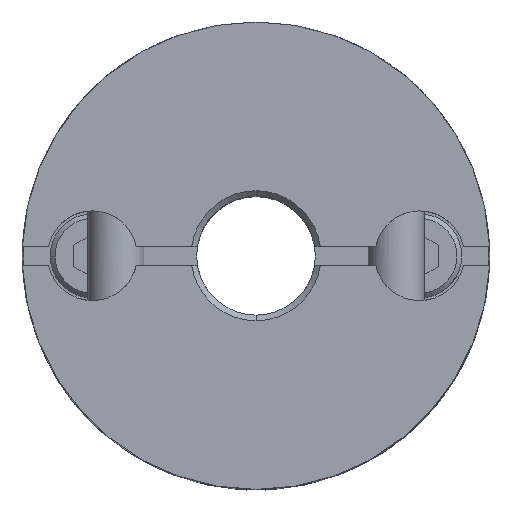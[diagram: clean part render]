
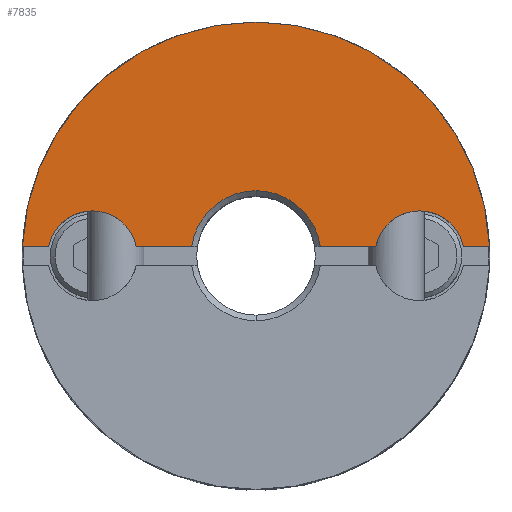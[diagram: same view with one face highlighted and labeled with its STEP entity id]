
A CAD part, top view. The second image highlights one B-rep face of the part: STEP entity #7835.
In plain terms, the highlighted planar face has unit normal (0, 0, 1).
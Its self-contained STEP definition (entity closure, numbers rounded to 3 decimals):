
#809=CARTESIAN_POINT('',(0.,12.5,11.7));
#810=VERTEX_POINT('',#809);
#817=CARTESIAN_POINT('',(12.49,0.5,11.7));
#818=VERTEX_POINT('',#817);
#819=CARTESIAN_POINT('',(0.,0.0,11.7));
#820=DIRECTION('',(0.0,0.0,-1.0));
#821=DIRECTION('',(0.0,-1.0,0.0));
#822=AXIS2_PLACEMENT_3D('',#819,#820,#821);
#823=CIRCLE('',#822,12.5);
#824=EDGE_CURVE('',#810,#818,#823,.T.);
#1028=CARTESIAN_POINT('',(0.,3.475,11.7));
#1029=VERTEX_POINT('',#1028);
#1037=CARTESIAN_POINT('',(3.439,0.5,11.7));
#1038=VERTEX_POINT('',#1037);
#1052=CARTESIAN_POINT('',(0.,0.0,11.7));
#1053=DIRECTION('',(0.0,0.0,1.0));
#1054=DIRECTION('',(0.0,1.0,0.0));
#1055=AXIS2_PLACEMENT_3D('',#1052,#1053,#1054);
#1056=CIRCLE('',#1055,3.475);
#1057=EDGE_CURVE('',#1038,#1029,#1056,.T.);
#1428=CARTESIAN_POINT('',(8.75,2.4,11.7));
#1429=VERTEX_POINT('',#1428);
#1436=CARTESIAN_POINT('',(6.403,0.5,11.7));
#1437=VERTEX_POINT('',#1436);
#1438=CARTESIAN_POINT('',(8.75,0.,11.7));
#1439=DIRECTION('',(0.0,0.0,-1.0));
#1440=DIRECTION('',(0.0,-1.0,0.0));
#1441=AXIS2_PLACEMENT_3D('',#1438,#1439,#1440);
#1442=CIRCLE('',#1441,2.4);
#1443=EDGE_CURVE('',#1437,#1429,#1442,.T.);
#1503=CARTESIAN_POINT('',(11.097,0.5,11.7));
#1504=VERTEX_POINT('',#1503);
#1511=CARTESIAN_POINT('',(8.75,0.,11.7));
#1512=DIRECTION('',(0.0,0.0,-1.0));
#1513=DIRECTION('',(0.0,-1.0,0.0));
#1514=AXIS2_PLACEMENT_3D('',#1511,#1512,#1513);
#1515=CIRCLE('',#1514,2.4);
#1516=EDGE_CURVE('',#1429,#1504,#1515,.T.);
#1837=CARTESIAN_POINT('',(-8.75,2.4,11.7));
#1838=VERTEX_POINT('',#1837);
#1870=CARTESIAN_POINT('',(-6.403,0.5,11.7));
#1871=VERTEX_POINT('',#1870);
#1878=CARTESIAN_POINT('',(-8.75,0.,11.7));
#1879=DIRECTION('',(0.0,0.0,-1.0));
#1880=DIRECTION('',(0.0,-1.0,0.0));
#1881=AXIS2_PLACEMENT_3D('',#1878,#1879,#1880);
#1882=CIRCLE('',#1881,2.4);
#1883=EDGE_CURVE('',#1838,#1871,#1882,.T.);
#6343=CARTESIAN_POINT('',(-11.097,0.5,11.7));
#6344=VERTEX_POINT('',#6343);
#6345=CARTESIAN_POINT('',(-8.75,0.,11.7));
#6346=DIRECTION('',(0.0,0.0,-1.0));
#6347=DIRECTION('',(0.0,-1.0,0.0));
#6348=AXIS2_PLACEMENT_3D('',#6345,#6346,#6347);
#6349=CIRCLE('',#6348,2.4);
#6350=EDGE_CURVE('',#6344,#1838,#6349,.T.);
#6870=CARTESIAN_POINT('',(3.439,0.5,11.7));
#6871=DIRECTION('',(1.0,0.0,0.0));
#6872=VECTOR('',#6871,2.964);
#6873=LINE('',#6870,#6872);
#6874=EDGE_CURVE('',#1038,#1437,#6873,.T.);
#6938=CARTESIAN_POINT('',(-3.439,0.5,11.7));
#6939=VERTEX_POINT('',#6938);
#6953=CARTESIAN_POINT('',(-6.403,0.5,11.7));
#6954=DIRECTION('',(1.0,0.0,0.0));
#6955=VECTOR('',#6954,2.964);
#6956=LINE('',#6953,#6955);
#6957=EDGE_CURVE('',#1871,#6939,#6956,.T.);
#7613=CARTESIAN_POINT('',(-12.49,0.5,11.7));
#7614=VERTEX_POINT('',#7613);
#7615=CARTESIAN_POINT('',(-12.49,0.5,11.7));
#7616=DIRECTION('',(1.0,0.0,0.0));
#7617=VECTOR('',#7616,1.393);
#7618=LINE('',#7615,#7617);
#7619=EDGE_CURVE('',#7614,#6344,#7618,.T.);
#7719=CARTESIAN_POINT('',(11.097,0.5,11.7));
#7720=DIRECTION('',(1.0,0.0,0.0));
#7721=VECTOR('',#7720,1.393);
#7722=LINE('',#7719,#7721);
#7723=EDGE_CURVE('',#1504,#818,#7722,.T.);
#7804=CARTESIAN_POINT('',(0.,-1.136,11.7));
#7805=DIRECTION('',(0.0,0.0,1.0));
#7806=DIRECTION('',(0.0,-1.0,0.0));
#7807=AXIS2_PLACEMENT_3D('',#7804,#7805,#7806);
#7808=PLANE('',#7807);
#7809=ORIENTED_EDGE('',*,*,#6350,.T.);
#7810=ORIENTED_EDGE('',*,*,#1883,.T.);
#7811=ORIENTED_EDGE('',*,*,#6957,.T.);
#7812=CARTESIAN_POINT('',(0.,0.0,11.7));
#7813=DIRECTION('',(0.0,0.0,1.0));
#7814=DIRECTION('',(0.0,1.0,0.0));
#7815=AXIS2_PLACEMENT_3D('',#7812,#7813,#7814);
#7816=CIRCLE('',#7815,3.475);
#7817=EDGE_CURVE('',#1029,#6939,#7816,.T.);
#7818=ORIENTED_EDGE('',*,*,#7817,.F.);
#7819=ORIENTED_EDGE('',*,*,#1057,.F.);
#7820=ORIENTED_EDGE('',*,*,#6874,.T.);
#7821=ORIENTED_EDGE('',*,*,#1443,.T.);
#7822=ORIENTED_EDGE('',*,*,#1516,.T.);
#7823=ORIENTED_EDGE('',*,*,#7723,.T.);
#7824=ORIENTED_EDGE('',*,*,#824,.F.);
#7825=CARTESIAN_POINT('',(0.,0.0,11.7));
#7826=DIRECTION('',(0.0,0.0,-1.0));
#7827=DIRECTION('',(0.0,-1.0,0.0));
#7828=AXIS2_PLACEMENT_3D('',#7825,#7826,#7827);
#7829=CIRCLE('',#7828,12.5);
#7830=EDGE_CURVE('',#7614,#810,#7829,.T.);
#7831=ORIENTED_EDGE('',*,*,#7830,.F.);
#7832=ORIENTED_EDGE('',*,*,#7619,.T.);
#7833=EDGE_LOOP('',(#7809,#7810,#7811,#7818,#7819,#7820,#7821,#7822,#7823,#7824,#7831,#7832));
#7834=FACE_OUTER_BOUND('',#7833,.T.);
#7835=ADVANCED_FACE('',(#7834),#7808,.T.);
